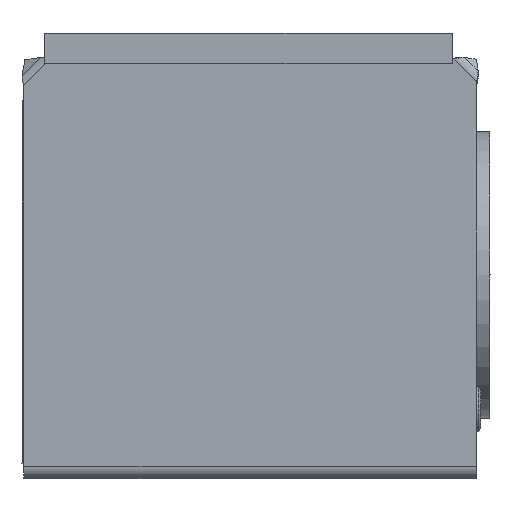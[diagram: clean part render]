
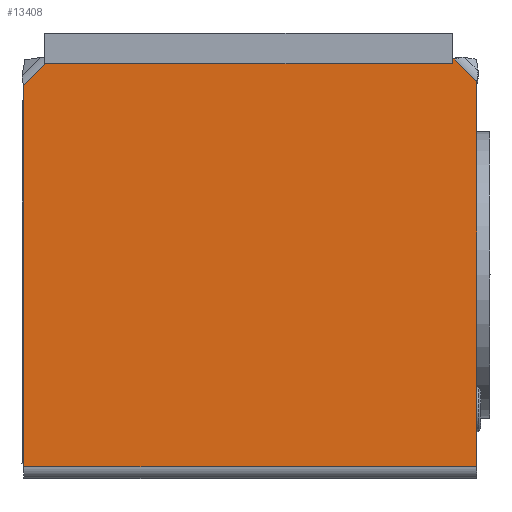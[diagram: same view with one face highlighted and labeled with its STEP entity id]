
A CAD part, left-side view. The second image highlights one B-rep face of the part: STEP entity #13408.
In plain terms, the highlighted planar face has unit normal (-1, 0, 0).
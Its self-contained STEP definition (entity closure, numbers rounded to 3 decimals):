
#29 = EDGE_CURVE ( 'NONE', #2439, #2446, #15199, .T. ) ;
#2256 = VERTEX_POINT ( 'NONE', #12920 ) ;
#2351 = VERTEX_POINT ( 'NONE', #12876 ) ;
#2379 = VERTEX_POINT ( 'NONE', #12857 ) ;
#2439 = VERTEX_POINT ( 'NONE', #12805 ) ;
#2446 = VERTEX_POINT ( 'NONE', #12804 ) ;
#2493 = VERTEX_POINT ( 'NONE', #12777 ) ;
#3086 = EDGE_CURVE ( 'NONE', #2351, #2493, #3690, .T. ) ;
#3107 = EDGE_CURVE ( 'NONE', #2493, #2379, #3716, .T. ) ;
#3690 = LINE ( 'NONE', #12331, #3752 ) ;
#3716 = LINE ( 'NONE', #12249, #3744 ) ;
#3744 = VECTOR ( 'NONE', #12221, 1000. ) ;
#3752 = VECTOR ( 'NONE', #12330, 1000. ) ;
#4988 = AXIS2_PLACEMENT_3D ( 'NONE', #6977, #6979, #6981 ) ;
#6938 = PLANE ( 'NONE',  #4988 ) ;
#6977 = CARTESIAN_POINT ( 'NONE',  ( -13.251, 3.31, -0.107 ) ) ;
#6979 = DIRECTION ( 'NONE',  ( 1., 0., 0. ) ) ;
#6981 = DIRECTION ( 'NONE',  ( 0., 0., -1. ) ) ;
#8309 = FACE_OUTER_BOUND ( 'NONE', #10972, .T. ) ;
#9660 = EDGE_CURVE ( 'NONE', #2446, #2256, #10351, .T. ) ;
#9675 = EDGE_CURVE ( 'NONE', #2379, #2439, #10377, .T. ) ;
#9689 = EDGE_CURVE ( 'NONE', #2256, #2351, #10396, .T. ) ;
#10261 = CARTESIAN_POINT ( 'NONE',  ( -13.25, -11.69, 12.301 ) ) ;
#10262 = DIRECTION ( 'NONE',  ( 0., 0., -1. ) ) ;
#10297 = CARTESIAN_POINT ( 'NONE',  ( -13.249, 16.521, 13.801 ) ) ;
#10298 = DIRECTION ( 'NONE',  ( 0., -1., 0. ) ) ;
#10351 = LINE ( 'NONE', #10261, #10354 ) ;
#10354 = VECTOR ( 'NONE', #10262, 1000. ) ;
#10377 = LINE ( 'NONE', #10297, #10378 ) ;
#10378 = VECTOR ( 'NONE', #10298, 1000. ) ;
#10396 = LINE ( 'NONE', #13696, #10400 ) ;
#10400 = VECTOR ( 'NONE', #13701, 1000. ) ;
#10972 = EDGE_LOOP ( 'NONE', ( #15125, #15234, #15004, #15269, #14939, #15029 ) ) ;
#11814 = CARTESIAN_POINT ( 'NONE',  ( -13.25, -10.19, 13.801 ) ) ;
#11821 = DIRECTION ( 'NONE',  ( 0., -0.707, -0.707 ) ) ;
#12221 = DIRECTION ( 'NONE',  ( 0., -0.707, 0.707 ) ) ;
#12249 = CARTESIAN_POINT ( 'NONE',  ( -13.249, 18.31, 12.013 ) ) ;
#12330 = DIRECTION ( 'NONE',  ( 0., 0., 1. ) ) ;
#12331 = CARTESIAN_POINT ( 'NONE',  ( -13.25, 18.31, -0.107 ) ) ;
#12777 = CARTESIAN_POINT ( 'NONE',  ( -13.249, 18.31, 12.013 ) ) ;
#12804 = CARTESIAN_POINT ( 'NONE',  ( -13.25, -11.69, 12.301 ) ) ;
#12805 = CARTESIAN_POINT ( 'NONE',  ( -13.25, -10.19, 13.801 ) ) ;
#12857 = CARTESIAN_POINT ( 'NONE',  ( -13.249, 16.521, 13.801 ) ) ;
#12876 = CARTESIAN_POINT ( 'NONE',  ( -13.251, 18.31, -13.199 ) ) ;
#12920 = CARTESIAN_POINT ( 'NONE',  ( -13.252, -11.69, -13.199 ) ) ;
#13408 = ADVANCED_FACE ( 'NONE', ( #8309 ), #6938, .F. ) ;
#13696 = CARTESIAN_POINT ( 'NONE',  ( -13.252, 3.31, -13.199 ) ) ;
#13701 = DIRECTION ( 'NONE',  ( 0., 1., 0. ) ) ;
#14939 = ORIENTED_EDGE ( 'NONE', *, *, #9675, .F. ) ;
#14941 = VECTOR ( 'NONE', #11821, 1000. ) ;
#15004 = ORIENTED_EDGE ( 'NONE', *, *, #9660, .F. ) ;
#15029 = ORIENTED_EDGE ( 'NONE', *, *, #3107, .F. ) ;
#15125 = ORIENTED_EDGE ( 'NONE', *, *, #3086, .F. ) ;
#15199 = LINE ( 'NONE', #11814, #14941 ) ;
#15234 = ORIENTED_EDGE ( 'NONE', *, *, #9689, .F. ) ;
#15269 = ORIENTED_EDGE ( 'NONE', *, *, #29, .F. ) ;
